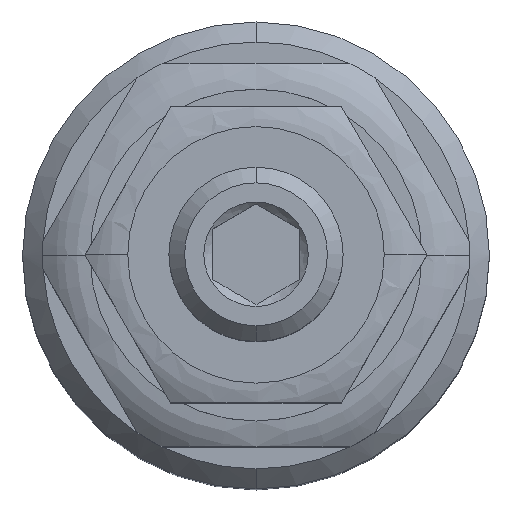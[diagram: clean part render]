
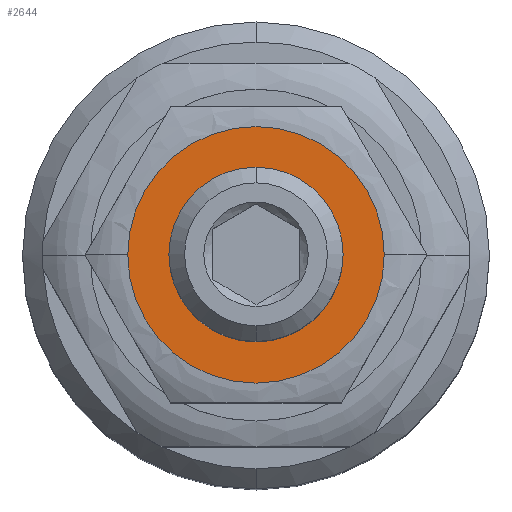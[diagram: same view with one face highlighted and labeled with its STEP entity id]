
A CAD part, top view. The second image highlights one B-rep face of the part: STEP entity #2644.
In plain terms, the highlighted planar face has unit normal (0, 0, 1).
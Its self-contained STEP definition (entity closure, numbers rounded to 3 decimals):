
#47=CARTESIAN_POINT('',(0.,0.,55.5));
#48=DIRECTION('',(0.,0.,-1.));
#49=DIRECTION('',(-1.,0.,0.));
#50=AXIS2_PLACEMENT_3D('',#47,#48,#49);
#52=CARTESIAN_POINT('',(0.,0.,55.5));
#53=DIRECTION('',(0.,0.,-1.));
#54=DIRECTION('',(1.,0.,0.));
#55=AXIS2_PLACEMENT_3D('',#52,#53,#54);
#57=CARTESIAN_POINT('',(0.,0.,55.5));
#58=DIRECTION('',(0.,0.,1.));
#59=DIRECTION('',(0.,1.,0.));
#60=AXIS2_PLACEMENT_3D('',#57,#58,#59);
#62=CARTESIAN_POINT('',(0.,0.,55.5));
#63=DIRECTION('',(0.,0.,1.));
#64=DIRECTION('',(0.,-1.,0.));
#65=AXIS2_PLACEMENT_3D('',#62,#63,#64);
#2141=CARTESIAN_POINT('',(0.,5.,55.5));
#2142=VERTEX_POINT('',#2141);
#2143=CARTESIAN_POINT('',(0.,-5.,55.5));
#2144=VERTEX_POINT('',#2143);
#2145=CARTESIAN_POINT('',(-7.361,0.,55.5));
#2146=CARTESIAN_POINT('',(7.361,0.,55.5));
#2147=VERTEX_POINT('',#2145);
#2148=VERTEX_POINT('',#2146);
#2629=CARTESIAN_POINT('',(0.,0.,55.5));
#2630=DIRECTION('',(0.,0.,-1.));
#2631=DIRECTION('',(0.,-1.,0.));
#2632=AXIS2_PLACEMENT_3D('',#2629,#2630,#2631);
#2633=PLANE('',#2632);
#2635=ORIENTED_EDGE('',*,*,#2634,.T.);
#2637=ORIENTED_EDGE('',*,*,#2636,.T.);
#2638=EDGE_LOOP('',(#2635,#2637));
#2639=FACE_OUTER_BOUND('',#2638,.F.);
#2640=ORIENTED_EDGE('',*,*,#2624,.T.);
#2641=ORIENTED_EDGE('',*,*,#2608,.T.);
#2642=EDGE_LOOP('',(#2640,#2641));
#2643=FACE_BOUND('',#2642,.F.);
#2644=ADVANCED_FACE('',(#2639,#2643),#2633,.F.);
#51=CIRCLE('',#50,7.361);
#56=CIRCLE('',#55,7.361);
#61=CIRCLE('',#60,5.);
#66=CIRCLE('',#65,5.);
#2608=EDGE_CURVE('',#2144,#2142,#66,.T.);
#2624=EDGE_CURVE('',#2142,#2144,#61,.T.);
#2634=EDGE_CURVE('',#2147,#2148,#51,.T.);
#2636=EDGE_CURVE('',#2148,#2147,#56,.T.);
